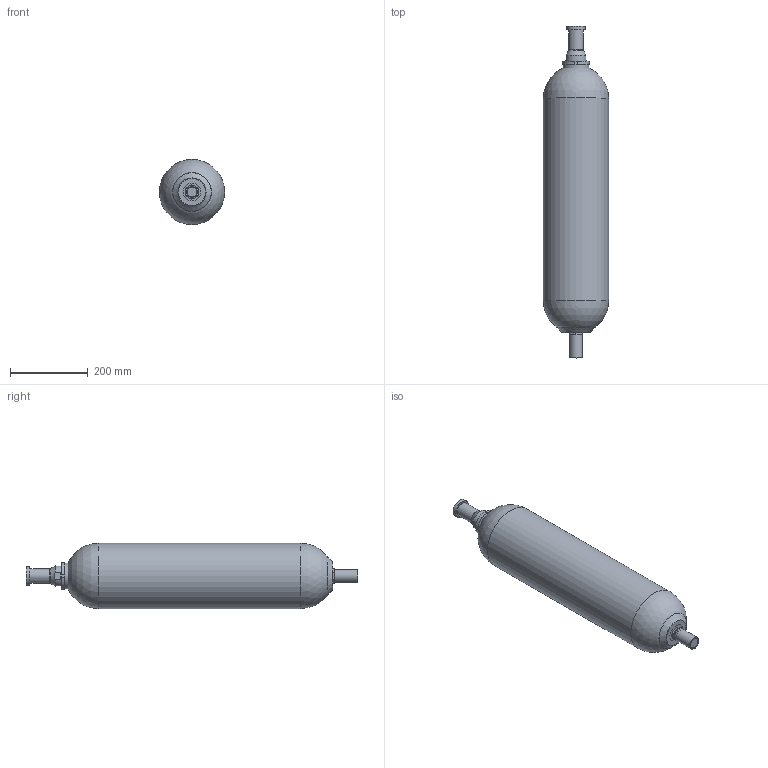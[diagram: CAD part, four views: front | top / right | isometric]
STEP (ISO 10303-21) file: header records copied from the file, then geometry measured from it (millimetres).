
FILE_DESCRIPTION((''),'2;1');
FILE_NAME('F:\STEP\ALLEGE\GAMME_EHVF_350&330&250bar\EHVF_10L_350_90.stp','2011-03-04T13:02:24',('laurent.simeon'),(''),'Autodesk Inventor 2011','Autodesk Inventor 2011','');
FILE_SCHEMA(('AUTOMOTIVE_DESIGN { 1 0 10303 214 1 1 1 1 }'));
Length unit declared in the file: millimetre
Products named in the file (39): EHVF_10L_350_90; CA108600-00190; BC108585-00220; BE100016-00200; BM108584-00200; CB108583-00200; EC100987-00200; EC102958-00200; BP102851-00200; BOUCHON DE PROTECTION; BOUCHON PLASTIQUE; VA108479-01626; VA108473-01626; VA108439-01600; VA108437-01600; PI108438-01600; RE100758-01200; JT104172-00023; JP102452-00026; ET106134-02600; BOUCHON DE VALVE; BO100759-02600; JP101164-00020; JOINT PLAT; PF108572-05200
Assembly tree (38 placements, depth 5):
  EHVF_10L_350_90
    CA108600-00190
      CA108600-00190
    BC108585-00220
      BE100016-00200
        BE100016-00200
      BM108584-00200
        CB108583-00200
          CB108583-00200
      EC100987-00200
        EC100987-00200
    EC102958-00200
      EC102958-00200
    BP102851-00200
      BOUCHON DE PROTECTION
      BOUCHON PLASTIQUE
    VA108479-01626
      VA108473-01626
        VA108439-01600
          VA108439-01600
        VA108437-01600
          VA108437-01600
        PI108438-01600
          PI108438-01600
        RE100758-01200
          RE100758-01200
        JT104172-00023
          JT104172-00023
        JP102452-00026
          JP102452-00026
        ET106134-02600
          ET106134-02600
      BOUCHON DE VALVE
        BO100759-02600
          BO100759-02600
        JP101164-00020
          JOINT PLAT
    PF108572-05200
      PF108572-05200
Bounding box: 168.3 x 855.9 x 168.3 mm (x, y, z)
Volume: 3375837.4 mm3; surface area: 775362.6 mm2
Topology: 23 solids, 23 shells, 677 faces, 1612 edges, 986 vertices
Faces by surface type: bspline 207, cylinder 183, plane 151, cone 75, torus 57, sphere 4
Full cylindrical faces by diameter (mm): 0.8 x1, 1.7 x1, 2 x1, 2.2 x1, 3.8 x1, 3.9 x1, 4.6 x1, 6.2 x1, 6.5 x1, 8 x1, 9 x3, 10 x1, 11 x6, 11.1 x1, 11.33 x1, 11.5 x1, 12.667 x1, 13 x1, 14.46 x1, 15.83 x1, 16 x2, 20.68 x1, 22 x2, 22.5 x1, 25 x1, 28.5 x2, 29.5 x1, 30.05 x1, 31 x1, 31.2 x1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
Entity records: 30055 total; most frequent: CARTESIAN_POINT 15421, ORIENTED_EDGE 2858, DIRECTION 2564, EDGE_CURVE 1429, AXIS2_PLACEMENT_3D 1128, VERTEX_POINT 928, EDGE_LOOP 877, FACE_OUTER_BOUND 676
